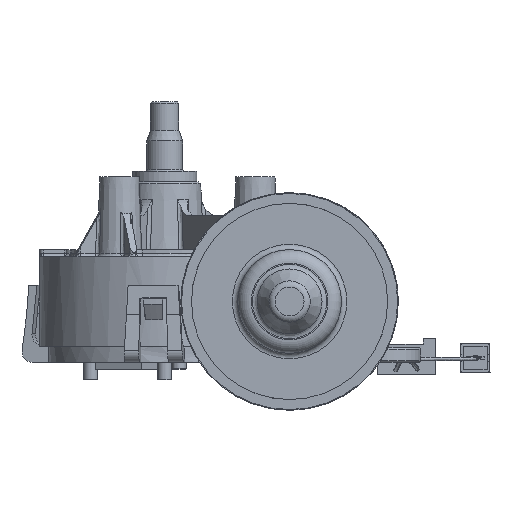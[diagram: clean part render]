
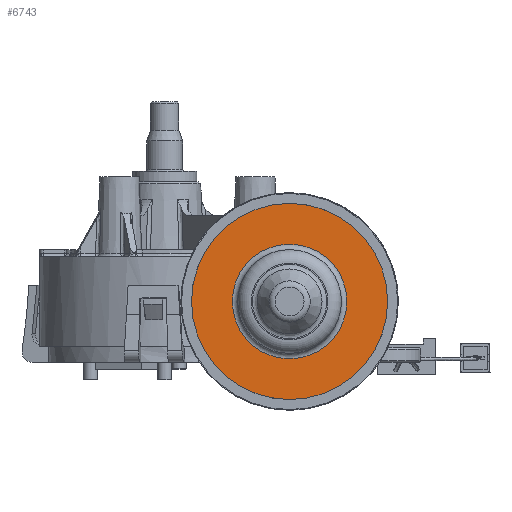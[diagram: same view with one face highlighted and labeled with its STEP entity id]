
A CAD part, front view. The second image highlights one B-rep face of the part: STEP entity #6743.
In plain terms, the highlighted planar face has unit normal (0, -1, 0).
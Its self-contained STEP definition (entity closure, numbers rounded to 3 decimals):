
#1399=PLANE('',#22945);
#6743=ADVANCED_FACE('',(#7565,#7566),#1399,.T.);
#7565=FACE_BOUND('',#8671,.T.);
#7566=FACE_BOUND('',#8672,.T.);
#8671=EDGE_LOOP('',(#13725));
#8672=EDGE_LOOP('',(#13726));
#13725=ORIENTED_EDGE('',*,*,#19545,.T.);
#13726=ORIENTED_EDGE('',*,*,#19544,.F.);
#16706=VERTEX_POINT('',#41518);
#16707=VERTEX_POINT('',#41521);
#19544=EDGE_CURVE('',#16706,#16706,#21139,.T.);
#19545=EDGE_CURVE('',#16707,#16707,#21140,.T.);
#21139=CIRCLE('',#22942,16.05);
#21140=CIRCLE('',#22944,27.5);
#22942=AXIS2_PLACEMENT_3D('',#41517,#27791,#27792);
#22944=AXIS2_PLACEMENT_3D('',#41520,#27795,#27796);
#22945=AXIS2_PLACEMENT_3D('',#41522,#27797,#27798);
#27791=DIRECTION('',(0.,-1.,0.));
#27792=DIRECTION('',(1.,0.,0.));
#27795=DIRECTION('',(0.,-1.,0.));
#27796=DIRECTION('',(1.,0.,0.));
#27797=DIRECTION('',(0.,-1.,0.));
#27798=DIRECTION('',(-0.174,0.,-0.985));
#41517=CARTESIAN_POINT('',(35.,-124.3,0.));
#41518=CARTESIAN_POINT('',(51.05,-124.3,0.));
#41520=CARTESIAN_POINT('',(35.,-124.3,0.));
#41521=CARTESIAN_POINT('',(62.5,-124.3,0.));
#41522=CARTESIAN_POINT('',(35.,-124.3,0.));
